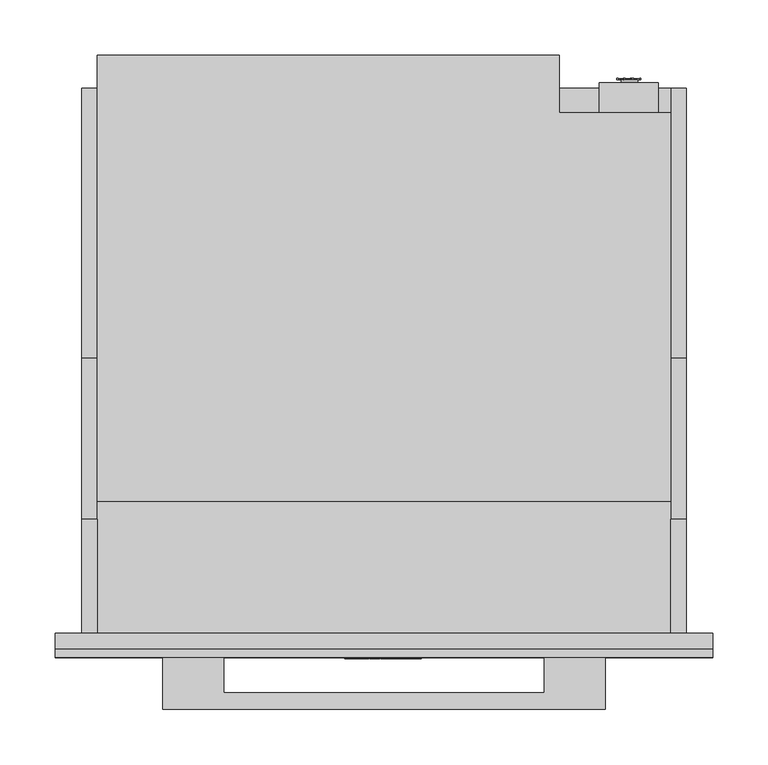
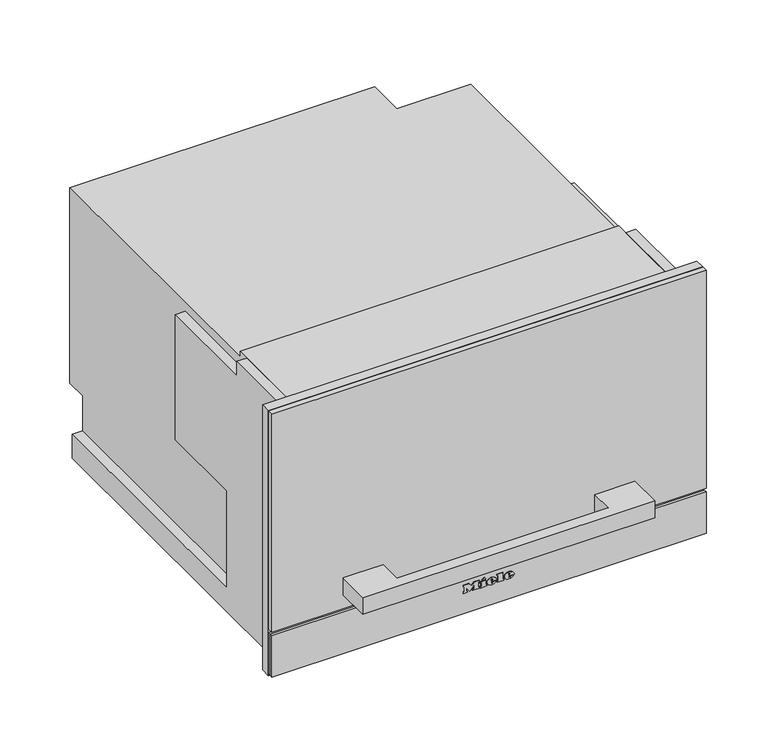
"""IFC4 building model written with IfcOpenShell, lengths in millimetres: proxy geometry, 10904280_CH_DGD7635_OBSW : 23763525_CH_10904280_DGD7635_OBSW."""

from ifc_helpers import new_model, si_unit, point, frame, frame_2d, origin, place, context, project, spatial, polyline, circle_curve, ellipse_curve, trimmed, segment, composite_curve, outline, extrude, faceted_brep, source, transform, mapped, element, save
from ifc_brep_helpers import plane_surface, cylinder_surface, revolved_surface, extruded_surface, advanced_brep


def specialty_equipment_248093d5(model_context):
    return source(origin(), model_context, "Body", "SolidModel", [
        advanced_brep(
        [(26.2998, -23.0, 36.7018), (26.2998, -23.0, 37.8532), (33.9264, -23.0, 37.8532), (20.6568, -23.0, 37.8532), (23.7918, -23.0, 34.0), (33.7326, -23.0, 36.7018), (30.2898, -23.0, 36.7018), (27.5766, -23.0, 35.425), (26.2998, -23.0, 39.3124), (26.2998, -23.0, 40.555), (28.2492, -23.0, 40.555), (28.2492, -23.0, 39.3124), (26.2998, -22.0, 36.7018), (27.5766, -22.0, 35.425), (30.2898, -22.0, 36.7018), (33.7326, -22.0, 36.7018), (23.7918, -22.0, 34.0), (20.6568, -22.0, 37.8532), (33.9264, -22.0, 37.8532), (26.2998, -22.0, 37.8532), (26.2998, -22.0, 39.3124), (28.2492, -22.0, 39.3124), (28.2492, -22.0, 40.555), (26.2998, -22.0, 40.555)],
        [
            (0, 1),
            (1, 2),
            (2, 3, ellipse_curve(frame((27.2916, -23.0, 37.8532), z_axis=(0.0, -1.0, 0.0), x_axis=(-1.0, 0.0, 0.0)), 6.6348, 5.4834)),
            (3, 4, circle_curve(frame((25.0686622, -23.0, 38.2408), z_axis=(0.0, -1.0, 0.0), x_axis=(0.0, 0.0, -1.0)), 4.4288556)),
            (4, 5, circle_curve(frame((27.1587808, -23.0, 41.2504), z_axis=(0.0, -1.0, 0.0), x_axis=(0.0, 0.0, -1.0)), 7.9940516)),
            (5, 6),
            (6, 7, circle_curve(frame((28.1338588, -23.0, 37.762), z_axis=(0.0, 1.0, 0.0), x_axis=(0.0, 0.0, -1.0)), 2.4025208)),
            (7, 0, circle_curve(frame((27.5766, -23.0, 36.7018), z_axis=(0.0, 1.0, 0.0), x_axis=(0.0, 0.0, -1.0)), 1.2768)),
            (8, 9),
            (9, 10, circle_curve(frame((27.2745, -23.0, 40.555), z_axis=(0.0, 1.0, 0.0), x_axis=(0.0, 0.0, -1.0)), 0.9747)),
            (10, 11),
            (11, 8),
            (12, 13, circle_curve(frame((27.5766, -22.0, 36.7018), z_axis=(0.0, -1.0, 0.0), x_axis=(0.0, 0.0, -1.0)), 1.2768)),
            (13, 14, circle_curve(frame((28.1338588, -22.0, 37.762), z_axis=(0.0, -1.0, 0.0), x_axis=(0.0, 0.0, -1.0)), 2.4025208)),
            (14, 15),
            (15, 16, circle_curve(frame((27.1587808, -22.0, 41.2504), z_axis=(0.0, 1.0, 0.0), x_axis=(0.0, 0.0, -1.0)), 7.9940516)),
            (16, 17, circle_curve(frame((25.0686622, -22.0, 38.2408), z_axis=(0.0, 1.0, 0.0), x_axis=(0.0, 0.0, -1.0)), 4.4288556)),
            (17, 18, ellipse_curve(frame((27.2916, -22.0, 37.8532), z_axis=(0.0, 1.0, 0.0), x_axis=(-1.0, 0.0, 0.0)), 6.6348, 5.4834)),
            (18, 19),
            (19, 12),
            (20, 21),
            (21, 22),
            (22, 23, circle_curve(frame((27.2745, -22.0, 40.555), z_axis=(0.0, -1.0, 0.0), x_axis=(0.0, 0.0, -1.0)), 0.9747)),
            (23, 20),
            (0, 12),
            (19, 1),
            (18, 2),
            (5, 15),
            (14, 6),
            (17, 3),
            (13, 7),
            (16, 4),
            (8, 20),
            (23, 9),
            (22, 10),
            (21, 11),
        ],
        [
            plane_surface(frame((26.2998, -23.0, 37.8532), z_axis=(0.0, -1.0, 0.0), x_axis=(0.0, 0.0, 1.0))),
            plane_surface(frame((26.2998, -22.0, 37.8532), z_axis=(0.0, 1.0, 0.0), x_axis=(0.0, 0.0, -1.0))),
            plane_surface(frame((26.2998, -23.0, 36.7018), z_axis=(1.0, 0.0, 0.0), x_axis=(0.0, 1.0, 0.0))),
            plane_surface(frame((26.2998, -23.0, 37.8532), z_axis=(0.0, 0.0, -1.0), x_axis=(0.0, 1.0, 0.0))),
            plane_surface(frame((33.7326, -23.0, 36.7018), z_axis=(0.0, 0.0, 1.0), x_axis=(0.0, 1.0, 0.0))),
            extruded_surface(trimmed(ellipse_curve(frame((27.2916, -21.0, 37.8532), z_axis=(0.0, -1.0, 0.0), x_axis=(-1.0, 0.0, 0.0)), 6.6348, 5.4834), [point((33.9264, -21.0, 37.8532))], [point((20.6568, -21.0, 37.8532))], True, "CARTESIAN"), (0.0, -1.0, 0.0), 1.0),
            revolved_surface(polyline([(28.1338588, -22.0, 35.3594792), (28.1338588, -23.0, 35.3594792)]), (28.1338588, -22.0, 37.762), (0.0, 1.0, 0.0)),
            revolved_surface(polyline([(27.5766, -22.0, 35.425), (27.5766, -23.0, 35.425)]), (27.5766, -22.0, 36.7018), (0.0, 1.0, 0.0)),
            cylinder_surface(frame((25.0686622, -22.0, 38.2408), z_axis=(0.0, -1.0, 0.0), x_axis=(0.0, 0.0, -1.0)), 4.4288556),
            cylinder_surface(frame((27.1587808, -22.0, 41.2504), z_axis=(0.0, -1.0, 0.0), x_axis=(0.0, 0.0, -1.0)), 7.9940516),
            plane_surface(frame((26.2998, -23.0, 39.3124), z_axis=(1.0, 0.0, 0.0), x_axis=(0.0, 1.0, 0.0))),
            revolved_surface(polyline([(27.2745, -22.0, 39.5803), (27.2745, -23.0, 39.5803)]), (27.2745, -22.0, 40.555), (0.0, 1.0, 0.0)),
            plane_surface(frame((28.2492, -23.0, 40.555), z_axis=(-1.0, 0.0, 0.0), x_axis=(0.0, 1.0, 0.0))),
            plane_surface(frame((28.2492, -23.0, 39.3124), z_axis=(0.0, 0.0, 1.0), x_axis=(0.0, 1.0, 0.0))),
        ],
        [
            (0, [[1, 2, 3, 4, 5, 6, 7, 8], [9, 10, 11, 12]]),
            (1, [[13, 14, 15, 16, 17, 18, 19, 20], [21, 22, 23, 24]]),
            (2, [[-1, 25, -20, 26]]),
            (3, [[-2, -26, -19, 27]]),
            (4, [[-6, 28, -15, 29]]),
            (5, [[-3, -27, -18, 30]]),
            (6, [[-7, -29, -14, 31]]),
            (7, [[-8, -31, -13, -25]]),
            (8, [[-4, -30, -17, 32]]),
            (9, [[-5, -32, -16, -28]]),
            (10, [[-9, 33, -24, 34]]),
            (11, [[-10, -34, -23, 35]]),
            (12, [[-11, -35, -22, 36]]),
            (13, [[-12, -36, -21, -33]]),
        ],
    ),
        advanced_brep(
        [(2.508, -23.0, 36.7018), (2.508, -23.0, 37.8532), (10.1346, -23.0, 37.8532), (-3.135, -23.0, 37.8532), (0.0, -23.0, 34.0), (9.9408, -23.0, 36.7018), (6.498, -23.0, 36.7018), (3.7848, -23.0, 35.425), (2.508, -23.0, 39.3124), (2.508, -23.0, 40.555), (4.4574, -23.0, 40.555), (4.4574, -23.0, 39.3124), (2.508, -22.0, 36.7018), (3.7848, -22.0, 35.425), (6.498, -22.0, 36.7018), (9.9408, -22.0, 36.7018), (0.0, -22.0, 34.0), (-3.135, -22.0, 37.8532), (10.1346, -22.0, 37.8532), (2.508, -22.0, 37.8532), (2.508, -22.0, 39.3124), (4.4574, -22.0, 39.3124), (4.4574, -22.0, 40.555), (2.508, -22.0, 40.555)],
        [
            (0, 1),
            (1, 2),
            (2, 3, ellipse_curve(frame((3.4998, -23.0, 37.8532), z_axis=(0.0, -1.0, 0.0), x_axis=(-1.0, 0.0, 0.0)), 6.6348, 5.4834)),
            (3, 4, circle_curve(frame((1.2768622, -23.0, 38.2408), z_axis=(0.0, -1.0, 0.0), x_axis=(0.0, 0.0, -1.0)), 4.4288556)),
            (4, 5, circle_curve(frame((3.3669808, -23.0, 41.2504), z_axis=(0.0, -1.0, 0.0), x_axis=(0.0, 0.0, -1.0)), 7.9940516)),
            (5, 6),
            (6, 7, circle_curve(frame((4.3420588, -23.0, 37.762), z_axis=(0.0, 1.0, 0.0), x_axis=(0.0, 0.0, -1.0)), 2.4025208)),
            (7, 0, circle_curve(frame((3.7848, -23.0, 36.7018), z_axis=(0.0, 1.0, 0.0), x_axis=(0.0, 0.0, -1.0)), 1.2768)),
            (8, 9),
            (9, 10, circle_curve(frame((3.4827, -23.0, 40.555), z_axis=(0.0, 1.0, 0.0), x_axis=(0.0, 0.0, -1.0)), 0.9747)),
            (10, 11),
            (11, 8),
            (12, 13, circle_curve(frame((3.7848, -22.0, 36.7018), z_axis=(0.0, -1.0, 0.0), x_axis=(0.0, 0.0, -1.0)), 1.2768)),
            (13, 14, circle_curve(frame((4.3420588, -22.0, 37.762), z_axis=(0.0, -1.0, 0.0), x_axis=(0.0, 0.0, -1.0)), 2.4025208)),
            (14, 15),
            (15, 16, circle_curve(frame((3.3669808, -22.0, 41.2504), z_axis=(0.0, 1.0, 0.0), x_axis=(0.0, 0.0, -1.0)), 7.9940516)),
            (16, 17, circle_curve(frame((1.2768622, -22.0, 38.2408), z_axis=(0.0, 1.0, 0.0), x_axis=(0.0, 0.0, -1.0)), 4.4288556)),
            (17, 18, ellipse_curve(frame((3.4998, -22.0, 37.8532), z_axis=(0.0, 1.0, 0.0), x_axis=(-1.0, 0.0, 0.0)), 6.6348, 5.4834)),
            (18, 19),
            (19, 12),
            (20, 21),
            (21, 22),
            (22, 23, circle_curve(frame((3.4827, -22.0, 40.555), z_axis=(0.0, -1.0, 0.0), x_axis=(0.0, 0.0, -1.0)), 0.9747)),
            (23, 20),
            (0, 12),
            (19, 1),
            (18, 2),
            (5, 15),
            (14, 6),
            (17, 3),
            (13, 7),
            (16, 4),
            (8, 20),
            (23, 9),
            (22, 10),
            (21, 11),
        ],
        [
            plane_surface(frame((2.508, -23.0, 37.8532), z_axis=(0.0, -1.0, 0.0), x_axis=(0.0, 0.0, 1.0))),
            plane_surface(frame((2.508, -22.0, 37.8532), z_axis=(0.0, 1.0, 0.0), x_axis=(0.0, 0.0, -1.0))),
            plane_surface(frame((2.508, -23.0, 36.7018), z_axis=(1.0, 0.0, 0.0), x_axis=(0.0, 1.0, 0.0))),
            plane_surface(frame((2.508, -23.0, 37.8532), z_axis=(0.0, 0.0, -1.0), x_axis=(0.0, 1.0, 0.0))),
            plane_surface(frame((9.9408, -23.0, 36.7018), z_axis=(0.0, 0.0, 1.0), x_axis=(0.0, 1.0, 0.0))),
            extruded_surface(trimmed(ellipse_curve(frame((3.4998, -21.0, 37.8532), z_axis=(0.0, -1.0, 0.0), x_axis=(-1.0, 0.0, 0.0)), 6.6348, 5.4834), [point((10.1346, -21.0, 37.8532))], [point((-3.135, -21.0, 37.8532))], True, "CARTESIAN"), (0.0, -1.0, 0.0), 1.0),
            revolved_surface(polyline([(4.3420588, -22.0, 35.3594792), (4.3420588, -23.0, 35.3594792)]), (4.3420588, -22.0, 37.762), (0.0, 1.0, 0.0)),
            revolved_surface(polyline([(3.7848, -22.0, 35.425), (3.7848, -23.0, 35.425)]), (3.7848, -22.0, 36.7018), (0.0, 1.0, 0.0)),
            cylinder_surface(frame((1.2768622, -22.0, 38.2408), z_axis=(0.0, -1.0, 0.0), x_axis=(0.0, 0.0, -1.0)), 4.4288556),
            cylinder_surface(frame((3.3669808, -22.0, 41.2504), z_axis=(0.0, -1.0, 0.0), x_axis=(0.0, 0.0, -1.0)), 7.9940516),
            plane_surface(frame((2.508, -23.0, 39.3124), z_axis=(1.0, 0.0, 0.0), x_axis=(0.0, 1.0, 0.0))),
            revolved_surface(polyline([(3.4827, -22.0, 39.5803), (3.4827, -23.0, 39.5803)]), (3.4827, -22.0, 40.555), (0.0, 1.0, 0.0)),
            plane_surface(frame((4.4574, -23.0, 40.555), z_axis=(-1.0, 0.0, 0.0), x_axis=(0.0, 1.0, 0.0))),
            plane_surface(frame((4.4574, -23.0, 39.3124), z_axis=(0.0, 0.0, 1.0), x_axis=(0.0, 1.0, 0.0))),
        ],
        [
            (0, [[1, 2, 3, 4, 5, 6, 7, 8], [9, 10, 11, 12]]),
            (1, [[13, 14, 15, 16, 17, 18, 19, 20], [21, 22, 23, 24]]),
            (2, [[-1, 25, -20, 26]]),
            (3, [[-2, -26, -19, 27]]),
            (4, [[-6, 28, -15, 29]]),
            (5, [[-3, -27, -18, 30]]),
            (6, [[-7, -29, -14, 31]]),
            (7, [[-8, -31, -13, -25]]),
            (8, [[-4, -30, -17, 32]]),
            (9, [[-5, -32, -16, -28]]),
            (10, [[-9, 33, -24, 34]]),
            (11, [[-10, -34, -23, 35]]),
            (12, [[-11, -35, -22, 36]]),
            (13, [[-12, -36, -21, -33]]),
        ],
    ),
        extrude(outline(polyline([(44.7274, -9.9522), (42.8806, -9.0858), (44.6818, -5.2212), (46.5286, -6.0762), (44.7274, -9.9522)])), frame((0.0, -23.0, 0.0), z_axis=(0.0, 1.0, 0.0), x_axis=(0.0, 0.0, 1.0)), (0.0, 0.0, 1.0), 1.0),
        extrude(outline(polyline([(42.6298, -12.768), (40.5892, -12.768), (40.5892, -11.4114), (35.9152, -11.4114), (35.9152, -12.768), (34.0, -12.768), (34.0, -3.7734), (35.9152, -3.7734), (35.9152, -5.0958), (42.6298, -5.0958), (42.6298, -12.768)])), frame((0.0, -23.0, 0.0), z_axis=(0.0, 1.0, 0.0), x_axis=(0.0, 0.0, 1.0)), (0.0, 0.0, 1.0), 1.0),
        extrude(outline(polyline([(43.5418, 10.773), (43.5418, 12.141), (35.9152, 12.141), (35.9152, 10.773), (34.0, 10.773), (34.0, 20.0184), (35.9152, 20.0184), (35.9152, 18.6162), (45.4, 18.6162), (45.4, 10.773), (43.5418, 10.773)])), frame((0.0, -23.0, 0.0), z_axis=(0.0, 1.0, 0.0), x_axis=(0.0, 0.0, 1.0)), (0.0, 0.0, 1.0), 1.0),
        extrude(outline(polyline([(43.5418, -35.4882), (43.5418, -34.1088), (35.9152, -34.1088), (35.9152, -35.4882), (34.0, -35.4882), (34.0, -30.4722), (35.9152, -30.4722), (35.9152, -31.8402), (40.7429247, -31.8402), (34.0, -26.7444), (40.9402223, -21.6258), (35.9152, -21.6258), (35.9152, -23.028), (34.0, -23.028), (34.0, -13.9308), (35.9152, -13.9308), (35.9152, -15.3786), (43.5418, -15.3786), (43.5418, -13.9308), (45.4, -13.9308), (45.4, -20.8734), (41.125, -24.2022), (45.4, -27.5424), (45.4, -35.4882), (43.5418, -35.4882)])), frame((0.0, -23.0, 0.0), z_axis=(0.0, 1.0, 0.0), x_axis=(0.0, 0.0, 1.0)), (0.0, 0.0, 1.0), 1.0),
        extrude(outline(polyline([(385.0, 297.5), (385.0, -297.5), (1.0, -297.5), (1.0, 297.5), (385.0, 297.5)]), holes=[polyline([(376.0, 271.5), (55.0, 271.5), (55.0, -271.5), (376.0, -271.5), (376.0, 271.5)])]), frame((0.0, -14.0, 0.0), z_axis=(0.0, 1.0, 0.0), x_axis=(0.0, 0.0, 1.0)), (0.0, 0.0, 1.0), 14.0),
        extrude(outline(polyline([(-297.5, -18.0), (297.5, -18.0), (297.5, -22.0), (-297.5, -22.0), (-297.5, -18.0)])), frame((0.0, 0.0, 4.0), z_axis=(0.0, 0.0, 1.0), x_axis=(1.0, 0.0, 0.0)), (0.0, 0.0, 1.0), 60.0),
        extrude(outline(polyline([(-297.5, -14.0), (297.5, -14.0), (297.5, -18.0), (-297.5, -18.0), (-297.5, -14.0)])), frame((0.0, 0.0, 4.0), z_axis=(0.0, 0.0, 1.0), x_axis=(1.0, 0.0, 0.0)), (0.0, 0.0, 1.0), 60.0),
        extrude(outline(composite_curve([segment(trimmed(circle_curve(frame_2d((220.0, -56.0)), 142.0), [point((220.0, 86.0))], [point((220.0, -198.0))], False, "CARTESIAN"), True, "CONTINUOUS"), segment(trimmed(circle_curve(frame_2d((220.0, -56.0)), 142.0), [point((220.0, -198.0))], [point((220.0, 86.0))], False, "CARTESIAN"), True, "CONTINUOUS")], self_intersect=False), holes=[composite_curve([segment(trimmed(circle_curve(frame_2d((220.0, -56.0)), 130.0), [point((220.0, 74.0))], [point((220.0, -186.0))], True, "CARTESIAN"), True, "CONTINUOUS"), segment(trimmed(circle_curve(frame_2d((220.0, -56.0)), 130.0), [point((220.0, -186.0))], [point((220.0, 74.0))], True, "CARTESIAN"), True, "CONTINUOUS")], self_intersect=False)]), frame((0.0, 73.0, 0.0), z_axis=(0.0, 1.0, 0.0), x_axis=(0.0, 0.0, 1.0)), (0.0, 0.0, 1.0), 27.0),
        extrude(outline(polyline([(135.3565747, 500.0), (134.220051, 503.1225733), (130.1009663, 503.1225733), (128.9644426, 500.0), (127.6142523, 500.0), (131.587748, 510.0), (132.7133829, 510.0), (136.6813016, 500.0), (135.3565747, 500.0)]), holes=[polyline([(133.7362065, 504.4519252), (132.1605087, 508.7811193), (130.5848109, 504.4519252), (133.7362065, 504.4519252)])]), frame((0.0, 0.0, 55.0), z_axis=(0.0, 0.0, 1.0), x_axis=(1.0, 0.0, 0.0)), (0.0, 0.0, 1.0), 1.0),
        extrude(outline(polyline([(125.9185787, 510.0), (127.1760447, 510.0), (124.4705666, 500.0), (122.9432999, 500.0), (120.3689708, 508.830311), (117.6245927, 500.0), (116.2783886, 500.0), (113.5302279, 510.0549623), (114.836363, 510.0549623), (116.9115224, 501.4130168), (119.4406083, 510.0471338), (121.3085745, 510.0471338), (123.8274276, 501.4071134), (125.9185787, 510.0)])), frame((0.0, 0.0, 55.0), z_axis=(0.0, 0.0, 1.0), x_axis=(1.0, 0.0, 0.0)), (0.0, 0.0, 1.0), 1.0),
        extrude(outline(polyline([(241.3772603, 474.0), (234.0, 474.0), (234.0, 475.2557039), (240.1215564, 475.2557039), (240.1215564, 478.5519266), (234.470889, 478.5519266), (234.470889, 479.8076304), (240.1215564, 479.8076304), (240.1215564, 482.7899271), (234.156963, 482.7899271), (234.156963, 484.045631), (241.3772603, 484.045631), (241.3772603, 474.0)])), frame((0.0, 0.0, 230.0), z_axis=(0.0, 0.0, 1.0), x_axis=(1.0, 0.0, 0.0)), (0.0, 0.0, 1.0), 1.0),
        extrude(outline(polyline([(232.1164442, 474.0), (225.8379248, 474.0), (225.8379248, 475.2557039), (230.8607403, 475.2557039), (230.8607403, 484.045631), (232.1164442, 484.045631), (232.1164442, 474.0)])), frame((0.0, 0.0, 230.0), z_axis=(0.0, 0.0, 1.0), x_axis=(1.0, 0.0, 0.0)), (0.0, 0.0, 1.0), 1.0),
        extrude(outline(polyline([(159.0, 232.51652), (169.045631, 232.51652), (169.045631, 231.2608161), (164.128275, 231.2608161), (169.045631, 226.1104682), (169.045631, 224.3544448), (164.9155425, 228.6782845), (159.0, 224.1974818), (159.0, 225.732776), (164.0669613, 229.5685589), (162.4531857, 231.2608161), (159.0, 231.2608161), (159.0, 232.51652)])), frame((0.0, 501.0, 0.0), z_axis=(0.0, 1.0, 0.0), x_axis=(0.0, 0.0, 1.0)), (0.0, 0.0, 1.0), 1.0),
        extrude(outline(polyline([(159.0, 221.4579872), (169.045631, 224.1974818), (169.045631, 222.9025372), (162.4433755, 221.3132869), (160.4053092, 220.8227776), (162.207931, 220.2979326), (169.045631, 218.3064648), (169.045631, 216.4400768), (164.0890343, 214.9930743), (160.4053092, 213.9164063), (162.3845144, 213.4406122), (169.045631, 211.8366467), (169.045631, 210.5417021), (159.0, 213.2836493), (159.0, 214.6251923), (166.7500474, 217.0335931), (167.8316204, 217.369592), (166.5293182, 217.7472841), (159.0, 219.9423134), (159.0, 221.4579872)])), frame((0.0, 501.0, 0.0), z_axis=(0.0, 1.0, 0.0), x_axis=(0.0, 0.0, 1.0)), (0.0, 0.0, 1.0), 1.0),
        extrude(outline(composite_curve([segment(trimmed(circle_curve(frame_2d((164.0, 222.0)), 7.5), [point((164.0, 229.5))], [point((164.0, 214.5))], False, "CARTESIAN"), True, "CONTINUOUS"), segment(trimmed(circle_curve(frame_2d((164.0, 222.0)), 7.5), [point((164.0, 214.5))], [point((164.0, 229.5))], False, "CARTESIAN"), True, "CONTINUOUS")], self_intersect=False)), frame((0.0, 471.0, 0.0), z_axis=(0.0, 1.0, 0.0), x_axis=(0.0, 0.0, 1.0)), (0.0, 0.0, 1.0), 30.0),
        extrude(outline(composite_curve([segment(trimmed(circle_curve(frame_2d((125.0, 505.0)), 7.5), [point((117.5, 505.0))], [point((132.5, 505.0))], False, "CARTESIAN"), True, "CONTINUOUS"), segment(trimmed(circle_curve(frame_2d((125.0, 505.0)), 7.5), [point((132.5, 505.0))], [point((117.5, 505.0))], False, "CARTESIAN"), True, "CONTINUOUS")], self_intersect=False)), frame((0.0, 0.0, 56.0), z_axis=(0.0, 0.0, 1.0), x_axis=(1.0, 0.0, 0.0)), (0.0, 0.0, 1.0), 30.0),
        extrude(outline(composite_curve([segment(trimmed(circle_curve(frame_2d((234.0, 478.8)), 7.5), [point((226.5, 478.8))], [point((241.5, 478.8))], False, "CARTESIAN"), True, "CONTINUOUS"), segment(trimmed(circle_curve(frame_2d((234.0, 478.8)), 7.5), [point((241.5, 478.8))], [point((226.5, 478.8))], False, "CARTESIAN"), True, "CONTINUOUS")], self_intersect=False)), frame((0.0, 0.0, 231.0), z_axis=(0.0, 0.0, 1.0), x_axis=(1.0, 0.0, 0.0)), (0.0, 0.0, 1.0), 30.0),
        extrude(outline(polyline([(195.0, 498.0), (248.0, 498.0), (248.0, 471.0), (195.0, 471.0), (195.0, 498.0)])), frame((0.0, 0.0, 261.0), z_axis=(0.0, 0.0, 1.0), x_axis=(1.0, 0.0, 0.0)), (0.0, 0.0, 1.0), 84.0),
        faceted_brep([(273.5, 0.0, 0.0), (273.5, 493.0, 0.0), (273.5, 493.0, 35.0), (273.5, 127.0, 35.0), (273.5, 127.0, 175.0), (273.5, 249.0, 175.0), (273.5, 249.0, 356.0), (273.5, 103.0, 356.0), (273.5, 103.0, 377.0), (273.5, 0.0, 377.0), (259.5, 0.0, 377.0), (259.5, 103.0, 377.0), (259.5, 103.0, 356.0), (259.5, 249.0, 356.0), (259.5, 249.0, 175.0), (259.5, 127.0, 175.0), (259.5, 127.0, 35.0), (259.5, 493.0, 35.0), (259.5, 493.0, 0.0), (259.5, 0.0, 0.0), (259.5, 0.0, 55.0), (259.5, 100.0, 55.0), (259.5, 100.0, 376.0), (259.5, 0.0, 376.0), (271.5, 0.0, 376.0), (271.5, 0.0, 55.0), (271.5, 100.0, 55.0), (271.5, 100.0, 376.0)], [[[0, 1, 2, 3, 4, 5, 6, 7, 8, 9]], [[10, 11, 12, 13, 14, 15, 16, 17, 18, 19, 20, 21, 22, 23]], [[1, 0, 19, 18]], [[2, 1, 18, 17]], [[3, 2, 17, 16]], [[4, 3, 16, 15]], [[5, 4, 15, 14]], [[6, 5, 14, 13]], [[7, 6, 13, 12]], [[8, 7, 12, 11]], [[9, 8, 11, 10]], [[0, 9, 10, 23, 24, 25, 20, 19]], [[26, 27, 22, 21]], [[27, 26, 25, 24]], [[26, 21, 20, 25]], [[22, 27, 24, 23]]]),
        faceted_brep([(-273.5, 103.0, 377.0), (-273.5, 103.0, 356.0), (-273.5, 249.0, 356.0), (-273.5, 249.0, 175.0), (-273.5, 127.0, 175.0), (-273.5, 127.0, 35.0), (-273.5, 493.0, 35.0), (-273.5, 493.0, 0.0), (-273.5, 0.0, 0.0), (-273.5, 0.0, 377.0), (-259.5, 103.0, 377.0), (-259.5, 0.0, 377.0), (-259.5, 0.0, 376.0), (-259.5, 100.0, 376.0), (-259.5, 100.0, 55.0), (-259.5, 0.0, 55.0), (-259.5, 0.0, 0.0), (-259.5, 493.0, 0.0), (-259.5, 493.0, 35.0), (-259.5, 127.0, 35.0), (-259.5, 127.0, 175.0), (-259.5, 249.0, 175.0), (-259.5, 249.0, 356.0), (-259.5, 103.0, 356.0), (-271.5, 0.0, 55.0), (-271.5, 0.0, 376.0), (-271.5, 100.0, 376.0), (-271.5, 100.0, 55.0)], [[[0, 1, 2, 3, 4, 5, 6, 7, 8, 9]], [[10, 11, 12, 13, 14, 15, 16, 17, 18, 19, 20, 21, 22, 23]], [[0, 9, 11, 10]], [[9, 8, 16, 15, 24, 25, 12, 11]], [[8, 7, 17, 16]], [[7, 6, 18, 17]], [[6, 5, 19, 18]], [[5, 4, 20, 19]], [[4, 3, 21, 20]], [[3, 2, 22, 21]], [[2, 1, 23, 22]], [[1, 0, 10, 23]], [[26, 27, 14, 13]], [[14, 27, 24, 15]], [[27, 26, 25, 24]], [[26, 13, 12, 25]]]),
        advanced_brep(
        [(259.5, 100.0, 376.0), (-259.5, 100.0, 376.0), (-259.5, 100.0, 55.0), (259.5, 100.0, 55.0), (74.0, 100.0, 220.0), (-186.0, 100.0, 220.0), (-259.5, 0.0, 55.0), (259.5, 0.0, 55.0), (259.5, 0.0, 376.0), (-259.5, 0.0, 376.0), (158.5, 471.0, 369.0), (259.5, 471.0, 369.0), (259.5, 471.0, 88.0), (158.5, 471.0, 88.0), (259.5, 0.0, 377.0), (-259.5, 0.0, 377.0), (-259.5, 0.0, 0.0), (259.5, 0.0, 0.0), (259.5, 493.0, 0.0), (259.5, 493.0, 88.0), (259.5, 119.0, 369.0), (259.5, 119.0, 377.0), (-259.5, 493.0, 0.0), (-259.5, 119.0, 377.0), (-259.5, 119.0, 369.0), (-259.5, 523.0, 369.0), (-259.5, 523.0, 86.0), (-259.5, 493.0, 86.0), (158.5, 523.0, 369.0), (158.5, 523.0, 86.0), (158.5, 493.0, 88.0), (158.5, 493.0, 86.0), (74.0, 438.0, 220.0), (-186.0, 438.0, 220.0)],
        [
            (0, 1),
            (1, 2),
            (2, 3),
            (3, 0),
            (4, 5, circle_curve(frame((-56.0, 100.0, 220.0), z_axis=(0.0, 1.0, 0.0), x_axis=(-1.0, 0.0, 0.0)), 130.0)),
            (5, 4, circle_curve(frame((-56.0, 100.0, 220.0), z_axis=(0.0, 1.0, 0.0), x_axis=(-1.0, 0.0, 0.0)), 130.0)),
            (2, 6),
            (6, 7),
            (7, 3),
            (0, 8),
            (8, 9),
            (9, 1),
            (10, 11),
            (11, 12),
            (12, 13),
            (13, 10),
            (14, 15),
            (15, 9),
            (8, 14),
            (16, 17),
            (17, 7),
            (6, 16),
            (18, 19),
            (19, 12),
            (11, 20),
            (20, 21),
            (21, 14),
            (17, 18),
            (16, 22),
            (22, 18),
            (15, 23),
            (23, 24),
            (24, 25),
            (25, 26),
            (26, 27),
            (27, 22),
            (21, 23),
            (25, 28),
            (28, 29),
            (29, 26),
            (28, 10),
            (13, 30),
            (30, 31),
            (31, 29),
            (31, 27),
            (20, 24),
            (30, 19),
            (32, 33, circle_curve(frame((-56.0, 438.0, 220.0), z_axis=(0.0, -1.0, 0.0), x_axis=(-1.0, 0.0, 0.0)), 130.0)),
            (33, 32, circle_curve(frame((-56.0, 438.0, 220.0), z_axis=(0.0, -1.0, 0.0), x_axis=(-1.0, 0.0, 0.0)), 130.0)),
            (33, 5),
            (4, 32),
        ],
        [
            plane_surface(frame((271.5, 100.0, 376.0), z_axis=(0.0, -1.0, 0.0), x_axis=(0.0, 0.0, -1.0))),
            plane_surface(frame((271.5, 100.0, 55.0), z_axis=(0.0, 0.0, 1.0), x_axis=(0.0, -1.0, 0.0))),
            plane_surface(frame((-271.5, 100.0, 376.0), z_axis=(0.0, 0.0, -1.0), x_axis=(0.0, -1.0, 0.0))),
            plane_surface(frame((259.5, 471.0, 377.0), z_axis=(0.0, 1.0, 0.0), x_axis=(0.0, 0.0, -1.0))),
            plane_surface(frame((259.5, 0.0, 377.0), z_axis=(0.0, -1.0, 0.0), x_axis=(0.0, 0.0, 1.0))),
            plane_surface(frame((259.5, 471.0, 377.0), z_axis=(1.0, 0.0, 0.0), x_axis=(0.0, -1.0, 0.0))),
            plane_surface(frame((259.5, 471.0, 0.0), z_axis=(0.0, 0.0, -1.0), x_axis=(0.0, -1.0, 0.0))),
            plane_surface(frame((-259.5, 471.0, 0.0), z_axis=(-1.0, 0.0, 0.0), x_axis=(0.0, -1.0, 0.0))),
            plane_surface(frame((-259.5, 471.0, 377.0), z_axis=(0.0, 0.0, 1.0), x_axis=(0.0, -1.0, 0.0))),
            plane_surface(frame((158.5, 523.0, 369.0), z_axis=(0.0, 1.0, 0.0), x_axis=(1.0, 0.0, 0.0))),
            plane_surface(frame((158.5, 523.0, 369.0), z_axis=(1.0, 0.0, 0.0), x_axis=(0.0, -1.0, 0.0))),
            plane_surface(frame((158.5, 523.0, 86.0), z_axis=(0.0, 0.0, -1.0), x_axis=(0.0, -1.0, 0.0))),
            plane_surface(frame((259.5, 119.0, 399.0), z_axis=(0.0, 1.0, 0.0), x_axis=(-1.0, 0.0, 0.0))),
            plane_surface(frame((259.5, 119.0, 369.0), z_axis=(0.0, 0.0, 1.0), x_axis=(-1.0, 0.0, 0.0))),
            plane_surface(frame((259.5, 493.0, 88.0), z_axis=(0.0, 1.0, 0.0), x_axis=(1.0, 0.0, 0.0))),
            plane_surface(frame((-259.5, 493.0, 88.0), z_axis=(0.0, 0.0, 1.0), x_axis=(0.0, -1.0, 0.0))),
            plane_surface(frame((-186.0, 438.0, 220.0), z_axis=(0.0, -1.0, 0.0), x_axis=(0.0, 0.0, 1.0))),
            revolved_surface(polyline([(-186.0, 438.0, 220.0), (-186.0, 100.0, 220.0)]), (-56.0, -14.0, 220.0), (0.0, 1.0, 0.0)),
        ],
        [
            (0, [[1, 2, 3, 4], [5, 6]]),
            (1, [[-3, 7, 8, 9]]),
            (2, [[-1, 10, 11, 12]]),
            (3, [[13, 14, 15, 16]]),
            (4, [[17, 18, -11, 19]]),
            (4, [[20, 21, -8, 22]]),
            (5, [[23, 24, -14, 25, 26, 27, -19, -10, -4, -9, -21, 28]]),
            (6, [[-28, -20, 29, 30]]),
            (7, [[-29, -22, -7, -2, -12, -18, 31, 32, 33, 34, 35, 36]]),
            (8, [[-17, -27, 37, -31]]),
            (9, [[38, 39, 40, -34]]),
            (10, [[-39, 41, -16, 42, 43, 44]]),
            (11, [[-40, -44, 45, -35]]),
            (12, [[46, -32, -37, -26]]),
            (13, [[-46, -25, -13, -41, -38, -33]]),
            (14, [[-23, -30, -36, -45, -43, 47]]),
            (15, [[-24, -47, -42, -15]]),
            (16, [[48, 49]]),
            (17, [[-49, 50, -5, 51]]),
            (17, [[-48, -51, -6, -50]]),
        ],
    ),
        extrude(outline(polyline([(-145.0, -22.0), (-145.0, -54.0), (145.0, -54.0), (145.0, -22.0), (200.0, -22.0), (200.0, -69.0), (-200.0, -69.0), (-200.0, -22.0), (-145.0, -22.0)])), frame((0.0, 0.0, 89.5), z_axis=(0.0, 0.0, 1.0), x_axis=(1.0, 0.0, 0.0)), (0.0, 0.0, 1.0), 24.0),
        extrude(outline(polyline([(-297.5, -14.0), (297.5, -14.0), (297.5, -22.0), (-297.5, -22.0), (-297.5, -14.0)])), frame((0.0, 0.0, 69.0), z_axis=(0.0, 0.0, 1.0), x_axis=(1.0, 0.0, 0.0)), (0.0, 0.0, 1.0), 316.0),
    ])


if __name__ == "__main__":
    model = new_model("IFC4")
    model_context = context("Model", 3, world=origin())
    ifc_project = project(units=[si_unit("LENGTHUNIT", "METRE", prefix="MILLI")], contexts=[model_context])
    site = spatial("IfcSite", under=ifc_project)
    building = spatial("IfcBuilding", under=site)
    placement = place(None, origin())
    specialty_equipment_shape = specialty_equipment_248093d5(model_context)
    element("IfcBuildingElementProxy", 1, Name="10904280_CH_DGD7635_OBSW : 23763525_CH_10904280_DGD7635_OBSW", ObjectType="10904280_CH_DGD7635_OBSW : 23763525_CH_10904280_DGD7635_OBSW", at=placement, inside=building, context=model_context, shape_type="MappedRepresentation", body=[
        mapped(specialty_equipment_shape, transform((0.0, 0.0, 0.0), x_axis=(1.0, 0.0, 0.0), y_axis=(0.0, 1.0, 0.0), z_axis=(0.0, 0.0, 1.0))),
    ])
    save(model, "model.ifc")
